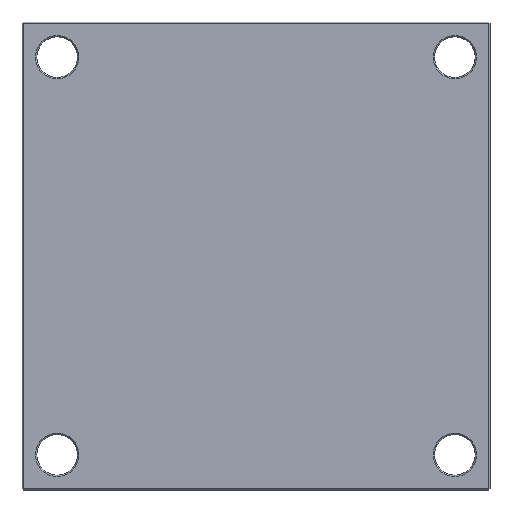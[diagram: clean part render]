
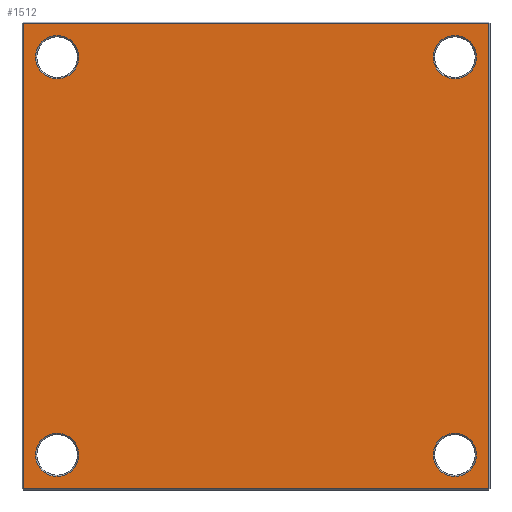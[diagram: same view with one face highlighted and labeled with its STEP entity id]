
A CAD part, front view. The second image highlights one B-rep face of the part: STEP entity #1512.
In plain terms, the highlighted planar face has unit normal (0, -1, 0).
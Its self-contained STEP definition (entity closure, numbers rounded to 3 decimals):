
#13 = ORIENTED_EDGE ( 'NONE', *, *, #35, .T. ) ;
#20 = DIRECTION ( 'NONE',  ( 0., 1., 0. ) ) ;
#31 = CARTESIAN_POINT ( 'NONE',  ( 147., 0., -147. ) ) ;
#35 = EDGE_CURVE ( 'NONE', #2055, #1137, #1983, .T. ) ;
#43 = DIRECTION ( 'NONE',  ( 0., 0., -1. ) ) ;
#44 = AXIS2_PLACEMENT_3D ( 'NONE', #273, #178, #45 ) ;
#45 = DIRECTION ( 'NONE',  ( 0., 0., 1. ) ) ;
#52 = DIRECTION ( 'NONE',  ( 0., 0., 1. ) ) ;
#65 = CARTESIAN_POINT ( 'NONE',  ( 147., 0., -147. ) ) ;
#98 = VERTEX_POINT ( 'NONE', #1244 ) ;
#103 = AXIS2_PLACEMENT_3D ( 'NONE', #65, #20, #52 ) ;
#121 = AXIS2_PLACEMENT_3D ( 'NONE', #226, #1915, #657 ) ;
#127 = CARTESIAN_POINT ( 'NONE',  ( 0., 0., 172. ) ) ;
#155 = CARTESIAN_POINT ( 'NONE',  ( -147., 0., 147. ) ) ;
#169 = VERTEX_POINT ( 'NONE', #1191 ) ;
#173 = CIRCLE ( 'NONE', #620, 16. ) ;
#178 = DIRECTION ( 'NONE',  ( 0., 1., 0. ) ) ;
#209 = DIRECTION ( 'NONE',  ( 0., 0., 1. ) ) ;
#216 = AXIS2_PLACEMENT_3D ( 'NONE', #2070, #818, #933 ) ;
#222 = DIRECTION ( 'NONE',  ( 0., 1., 0. ) ) ;
#226 = CARTESIAN_POINT ( 'NONE',  ( 0., 0., 0. ) ) ;
#229 = DIRECTION ( 'NONE',  ( 0., 0., 1. ) ) ;
#258 = ORIENTED_EDGE ( 'NONE', *, *, #1701, .T. ) ;
#260 = CIRCLE ( 'NONE', #216, 16. ) ;
#273 = CARTESIAN_POINT ( 'NONE',  ( 147., 0., 147. ) ) ;
#282 = AXIS2_PLACEMENT_3D ( 'NONE', #694, #700, #714 ) ;
#318 = CIRCLE ( 'NONE', #103, 16. ) ;
#321 = LINE ( 'NONE', #127, #1229 ) ;
#328 = VERTEX_POINT ( 'NONE', #1755 ) ;
#347 = CARTESIAN_POINT ( 'NONE',  ( -147., 0., 163. ) ) ;
#351 = VERTEX_POINT ( 'NONE', #1114 ) ;
#398 = VERTEX_POINT ( 'NONE', #1195 ) ;
#400 = CARTESIAN_POINT ( 'NONE',  ( -172., 0., 172. ) ) ;
#410 = VECTOR ( 'NONE', #643, 1000. ) ;
#417 = EDGE_LOOP ( 'NONE', ( #258, #1097, #916, #1402 ) ) ;
#419 = DIRECTION ( 'NONE',  ( 0., 1., 0. ) ) ;
#455 = PLANE ( 'NONE',  #121 ) ;
#488 = FACE_BOUND ( 'NONE', #691, .T. ) ;
#502 = ORIENTED_EDGE ( 'NONE', *, *, #1614, .T. ) ;
#514 = ORIENTED_EDGE ( 'NONE', *, *, #1093, .T. ) ;
#551 = VECTOR ( 'NONE', #2122, 1000. ) ;
#620 = AXIS2_PLACEMENT_3D ( 'NONE', #912, #1563, #1544 ) ;
#643 = DIRECTION ( 'NONE',  ( 0., 0., 1. ) ) ;
#657 = DIRECTION ( 'NONE',  ( 0., 0., 1. ) ) ;
#662 = FACE_BOUND ( 'NONE', #773, .T. ) ;
#691 = EDGE_LOOP ( 'NONE', ( #13, #782 ) ) ;
#694 = CARTESIAN_POINT ( 'NONE',  ( 147., 0., 147. ) ) ;
#700 = DIRECTION ( 'NONE',  ( 0., 1., 0. ) ) ;
#714 = DIRECTION ( 'NONE',  ( 0., 0., 1. ) ) ;
#720 = DIRECTION ( 'NONE',  ( 0., 0., 1. ) ) ;
#726 = DIRECTION ( 'NONE',  ( 0., 1., 0. ) ) ;
#773 = EDGE_LOOP ( 'NONE', ( #514, #502 ) ) ;
#782 = ORIENTED_EDGE ( 'NONE', *, *, #1598, .T. ) ;
#804 = ORIENTED_EDGE ( 'NONE', *, *, #1851, .T. ) ;
#818 = DIRECTION ( 'NONE',  ( 0., 1., 0. ) ) ;
#831 = CARTESIAN_POINT ( 'NONE',  ( -147., 0., 147. ) ) ;
#844 = VECTOR ( 'NONE', #43, 1000. ) ;
#912 = CARTESIAN_POINT ( 'NONE',  ( -147., 0., -147. ) ) ;
#916 = ORIENTED_EDGE ( 'NONE', *, *, #1533, .T. ) ;
#933 = DIRECTION ( 'NONE',  ( 0., 0., 1. ) ) ;
#946 = FACE_BOUND ( 'NONE', #1980, .T. ) ;
#964 = CARTESIAN_POINT ( 'NONE',  ( 147., 0., 163. ) ) ;
#1019 = ORIENTED_EDGE ( 'NONE', *, *, #1731, .T. ) ;
#1024 = VERTEX_POINT ( 'NONE', #1559 ) ;
#1093 = EDGE_CURVE ( 'NONE', #328, #398, #173, .T. ) ;
#1097 = ORIENTED_EDGE ( 'NONE', *, *, #1324, .T. ) ;
#1114 = CARTESIAN_POINT ( 'NONE',  ( 172., 0., -172. ) ) ;
#1137 = VERTEX_POINT ( 'NONE', #1943 ) ;
#1174 = CIRCLE ( 'NONE', #282, 16. ) ;
#1182 = AXIS2_PLACEMENT_3D ( 'NONE', #155, #222, #229 ) ;
#1191 = CARTESIAN_POINT ( 'NONE',  ( 147., 0., 131. ) ) ;
#1194 = CIRCLE ( 'NONE', #1367, 16. ) ;
#1195 = CARTESIAN_POINT ( 'NONE',  ( -147., 0., -131. ) ) ;
#1229 = VECTOR ( 'NONE', #1786, 1000. ) ;
#1242 = ORIENTED_EDGE ( 'NONE', *, *, #1333, .T. ) ;
#1244 = CARTESIAN_POINT ( 'NONE',  ( -147., 0., 131. ) ) ;
#1280 = LINE ( 'NONE', #1425, #844 ) ;
#1294 = AXIS2_PLACEMENT_3D ( 'NONE', #31, #419, #209 ) ;
#1324 = EDGE_CURVE ( 'NONE', #1024, #2059, #321, .T. ) ;
#1333 = EDGE_CURVE ( 'NONE', #169, #2076, #1174, .T. ) ;
#1367 = AXIS2_PLACEMENT_3D ( 'NONE', #831, #726, #720 ) ;
#1376 = FACE_BOUND ( 'NONE', #2123, .T. ) ;
#1402 = ORIENTED_EDGE ( 'NONE', *, *, #1504, .T. ) ;
#1413 = VERTEX_POINT ( 'NONE', #347 ) ;
#1417 = CARTESIAN_POINT ( 'NONE',  ( 147., 0., -163. ) ) ;
#1425 = CARTESIAN_POINT ( 'NONE',  ( -172., 0., 0. ) ) ;
#1444 = ORIENTED_EDGE ( 'NONE', *, *, #2043, .T. ) ;
#1504 = EDGE_CURVE ( 'NONE', #1994, #351, #1905, .T. ) ;
#1512 = ADVANCED_FACE ( 'NONE', ( #662, #488, #946, #1376, #2179 ), #455, .F. ) ;
#1533 = EDGE_CURVE ( 'NONE', #2059, #1994, #1280, .T. ) ;
#1544 = DIRECTION ( 'NONE',  ( 0., 0., 1. ) ) ;
#1559 = CARTESIAN_POINT ( 'NONE',  ( 172., 0., 172. ) ) ;
#1563 = DIRECTION ( 'NONE',  ( 0., 1., 0. ) ) ;
#1598 = EDGE_CURVE ( 'NONE', #1137, #2055, #318, .T. ) ;
#1614 = EDGE_CURVE ( 'NONE', #398, #328, #260, .T. ) ;
#1690 = LINE ( 'NONE', #2150, #410 ) ;
#1701 = EDGE_CURVE ( 'NONE', #351, #1024, #1690, .T. ) ;
#1731 = EDGE_CURVE ( 'NONE', #1413, #98, #2003, .T. ) ;
#1755 = CARTESIAN_POINT ( 'NONE',  ( -147., 0., -163. ) ) ;
#1786 = DIRECTION ( 'NONE',  ( -1., 0., 0. ) ) ;
#1851 = EDGE_CURVE ( 'NONE', #2076, #169, #1854, .T. ) ;
#1854 = CIRCLE ( 'NONE', #44, 16. ) ;
#1905 = LINE ( 'NONE', #2116, #551 ) ;
#1915 = DIRECTION ( 'NONE',  ( 0., 1., 0. ) ) ;
#1943 = CARTESIAN_POINT ( 'NONE',  ( 147., 0., -131. ) ) ;
#1980 = EDGE_LOOP ( 'NONE', ( #1242, #804 ) ) ;
#1983 = CIRCLE ( 'NONE', #1294, 16. ) ;
#1994 = VERTEX_POINT ( 'NONE', #2086 ) ;
#2003 = CIRCLE ( 'NONE', #1182, 16. ) ;
#2043 = EDGE_CURVE ( 'NONE', #98, #1413, #1194, .T. ) ;
#2055 = VERTEX_POINT ( 'NONE', #1417 ) ;
#2059 = VERTEX_POINT ( 'NONE', #400 ) ;
#2070 = CARTESIAN_POINT ( 'NONE',  ( -147., 0., -147. ) ) ;
#2076 = VERTEX_POINT ( 'NONE', #964 ) ;
#2086 = CARTESIAN_POINT ( 'NONE',  ( -172., 0., -172. ) ) ;
#2116 = CARTESIAN_POINT ( 'NONE',  ( 0., 0., -172. ) ) ;
#2122 = DIRECTION ( 'NONE',  ( 1., 0., 0. ) ) ;
#2123 = EDGE_LOOP ( 'NONE', ( #1444, #1019 ) ) ;
#2150 = CARTESIAN_POINT ( 'NONE',  ( 172., 0., 0. ) ) ;
#2179 = FACE_OUTER_BOUND ( 'NONE', #417, .T. ) ;
